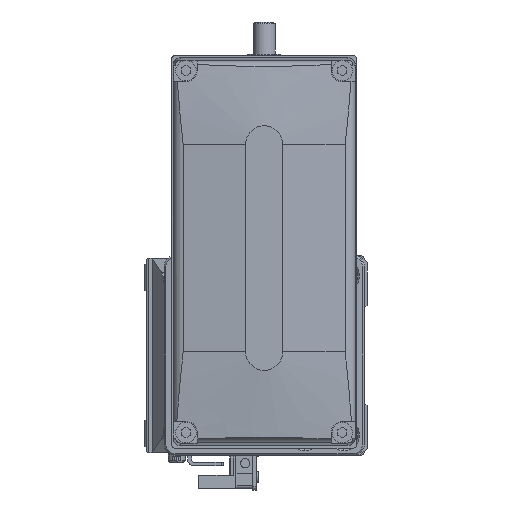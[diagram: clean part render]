
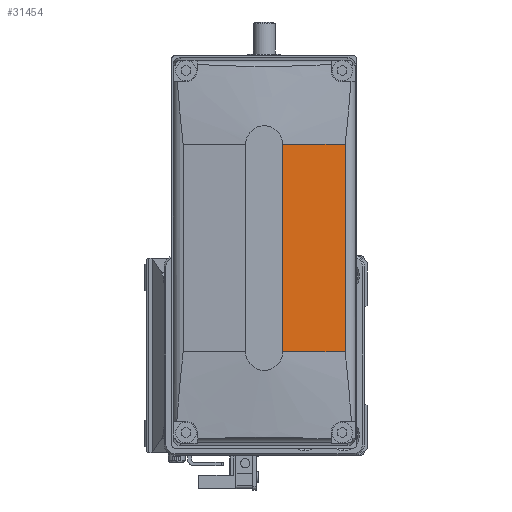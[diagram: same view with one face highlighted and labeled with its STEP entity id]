
A CAD part, left-side view. The second image highlights one B-rep face of the part: STEP entity #31454.
In plain terms, the highlighted planar face has unit normal (-0.996, -0.087, 0) as drawn and (-0.996, 0, -0.087) by its records, which use the part's own axes.
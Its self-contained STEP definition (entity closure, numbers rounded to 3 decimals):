
#589 = EDGE_CURVE ( 'NONE', #3519, #2746, #2035, .T. ) ;
#1152 = AXIS2_PLACEMENT_3D ( 'NONE', #21931, #33492, #19318 ) ;
#2035 = LINE ( 'NONE', #36438, #21980 ) ;
#2746 = VERTEX_POINT ( 'NONE', #7217 ) ;
#3519 = VERTEX_POINT ( 'NONE', #24071 ) ;
#6319 = ORIENTED_EDGE ( 'NONE', *, *, #23240, .F. ) ;
#6349 = ORIENTED_EDGE ( 'NONE', *, *, #12406, .F. ) ;
#7217 = CARTESIAN_POINT ( 'NONE',  ( -48.525, -28., -21.861 ) ) ;
#9007 = LINE ( 'NONE', #24586, #15624 ) ;
#10822 = DIRECTION ( 'NONE',  ( 0., 1., 0. ) ) ;
#11941 = LINE ( 'NONE', #36114, #17691 ) ;
#12406 = EDGE_CURVE ( 'NONE', #18256, #28208, #9007, .T. ) ;
#12472 = VECTOR ( 'NONE', #16844, 1000. ) ;
#13313 = DIRECTION ( 'NONE',  ( -0.087, 0., 0.996 ) ) ;
#15504 = EDGE_CURVE ( 'NONE', #3519, #28208, #11941, .T. ) ;
#15624 = VECTOR ( 'NONE', #13313, 1000. ) ;
#16844 = DIRECTION ( 'NONE',  ( 0., 1., 0. ) ) ;
#17691 = VECTOR ( 'NONE', #10822, 1000. ) ;
#18256 = VERTEX_POINT ( 'NONE', #22946 ) ;
#19318 = DIRECTION ( 'NONE',  ( -0.087, 0., 0.996 ) ) ;
#20046 = CARTESIAN_POINT ( 'NONE',  ( -48.525, 128., -21.861 ) ) ;
#21931 = CARTESIAN_POINT ( 'NONE',  ( -50., 128., -5. ) ) ;
#21980 = VECTOR ( 'NONE', #22515, 1000. ) ;
#22515 = DIRECTION ( 'NONE',  ( 0.087, 0., -0.996 ) ) ;
#22815 = ORIENTED_EDGE ( 'NONE', *, *, #15504, .T. ) ;
#22946 = CARTESIAN_POINT ( 'NONE',  ( -48.525, 28., -21.861 ) ) ;
#23240 = EDGE_CURVE ( 'NONE', #2746, #18256, #35020, .T. ) ;
#24071 = CARTESIAN_POINT ( 'NONE',  ( -50., -28., -5. ) ) ;
#24586 = CARTESIAN_POINT ( 'NONE',  ( 43606.406, 28., -499000. ) ) ;
#25561 = EDGE_LOOP ( 'NONE', ( #6349, #6319, #33400, #22815 ) ) ;
#25586 = FACE_OUTER_BOUND ( 'NONE', #25561, .T. ) ;
#27467 = PLANE ( 'NONE',  #1152 ) ;
#28208 = VERTEX_POINT ( 'NONE', #29059 ) ;
#29059 = CARTESIAN_POINT ( 'NONE',  ( -50., 28., -5. ) ) ;
#31454 = ADVANCED_FACE ( 'NONE', ( #25586 ), #27467, .T. ) ;
#33400 = ORIENTED_EDGE ( 'NONE', *, *, #589, .F. ) ;
#33492 = DIRECTION ( 'NONE',  ( -0.996, 0., -0.087 ) ) ;
#35020 = LINE ( 'NONE', #20046, #12472 ) ;
#36114 = CARTESIAN_POINT ( 'NONE',  ( -50., 128., -5. ) ) ;
#36438 = CARTESIAN_POINT ( 'NONE',  ( 43606.406, -28., -499000. ) ) ;
